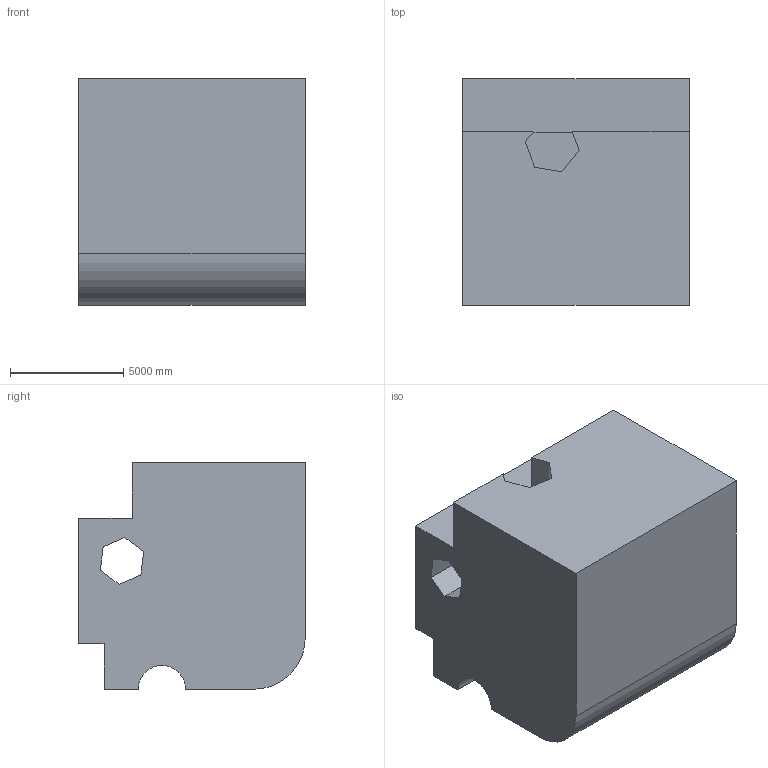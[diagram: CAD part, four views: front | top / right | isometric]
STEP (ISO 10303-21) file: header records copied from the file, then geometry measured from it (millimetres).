
FILE_DESCRIPTION (( 'STEP AP203' ), '1' );
FILE_NAME ('303.STEP', '2022-09-07T12:44:00', ( 'user' ), ( '' ), 'SwSTEP 2.0', 'SolidWorks 2021', '' );
FILE_SCHEMA (( 'CONFIG_CONTROL_DESIGN' ));
Length unit declared in the file: centimetre
Products named in the file (1): 303
Bounding box: 10000 x 10000 x 10000 mm (x, y, z)
Volume: 849310206227.4 mm3; surface area: 643353437.5 mm2
Topology: 1 solids, 1 shells, 26 faces, 72 edges, 48 vertices
Faces by surface type: plane 24, cylinder 2
Entity records: 901 total; most frequent: CARTESIAN_POINT 147, ORIENTED_EDGE 144, DIRECTION 130, EDGE_CURVE 72, VECTOR 68, LINE 68, VERTEX_POINT 48, AXIS2_PLACEMENT_3D 31
